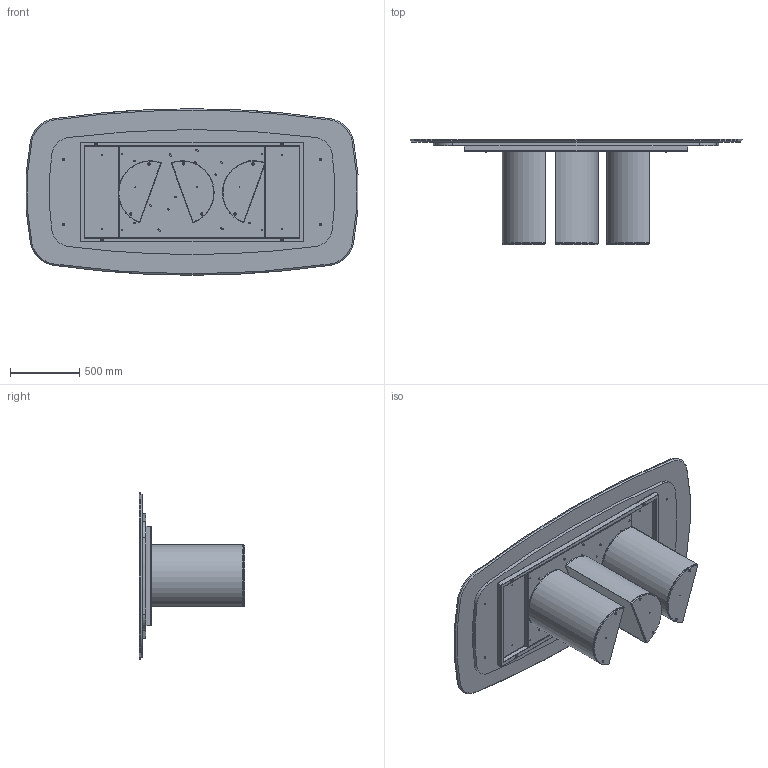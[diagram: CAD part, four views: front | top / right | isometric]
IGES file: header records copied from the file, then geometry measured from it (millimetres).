
Start section: SolidWorks IGES file using analytic representation for surfaces
Global section: file name: Y:\eforma\TECNICO\SOLIDWORKS\E-FORMA\1-TAVOLI\PLAI\02 parts\PL43M.IGS; native system: SolidWorks 2022; preprocessor: SolidWorks 2022; author: eforma.tech; date: 240807.155541; units: millimetre
Bounding box: 2391.9 x 759 x 1200 mm (x, y, z)
Volume: 108559001.8 mm3; surface area: 17628489.8 mm2
Topology: 45 solids, 45 shells, 1345 faces, 3057 edges, 1761 vertices
Faces by surface type: revolution 836, plane 509
